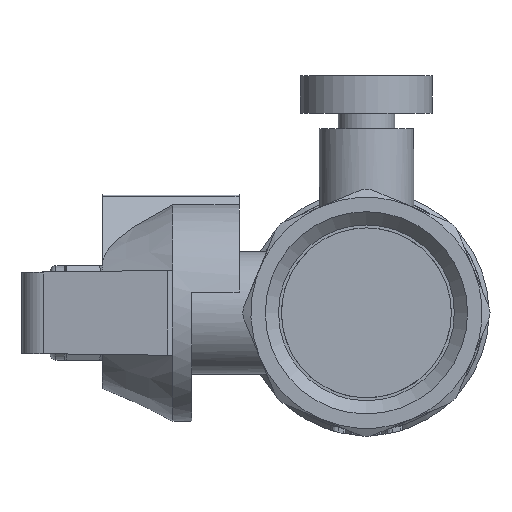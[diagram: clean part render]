
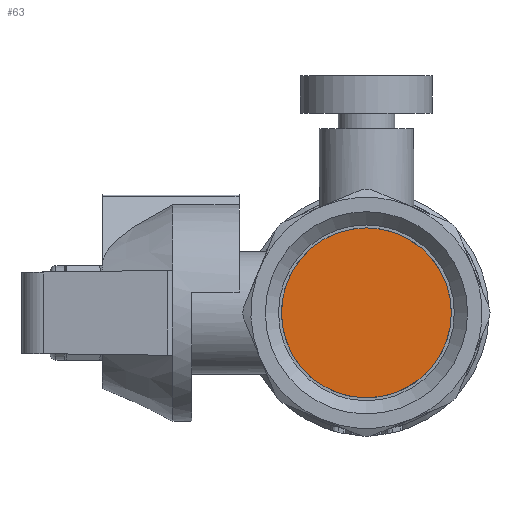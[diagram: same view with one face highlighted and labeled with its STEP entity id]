
A CAD part, left-side view. The second image highlights one B-rep face of the part: STEP entity #63.
In plain terms, the highlighted planar face has unit normal (-1, 0, 0).
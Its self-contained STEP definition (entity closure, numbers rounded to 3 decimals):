
#63=ADVANCED_FACE('',(#321),#323,.F.);
#321=FACE_BOUND('',#322,.T.);
#322=EDGE_LOOP('',(#2191));
#323=PLANE('',#324);
#324=AXIS2_PLACEMENT_3D('',#325,#326,#327);
#325=CARTESIAN_POINT('',(-33.65,0.,0.));
#326=DIRECTION('',(1.,0.,0.));
#327=DIRECTION('',(0.,0.,-1.));
#2191=ORIENTED_EDGE('',*,*,#3545,.F.);
#3545=EDGE_CURVE('',#4162,#4162,#4163,.T.);
#4162=VERTEX_POINT('',#5194);
#4163=CIRCLE('',#5195,9.);
#5194=CARTESIAN_POINT('',(-33.65,0.,-9.));
#5195=AXIS2_PLACEMENT_3D('',#5196,#5197,#5198);
#5196=CARTESIAN_POINT('',(-33.65,0.,0.));
#5197=DIRECTION('',(1.,0.,0.));
#5198=DIRECTION('',(0.,0.,-1.));
